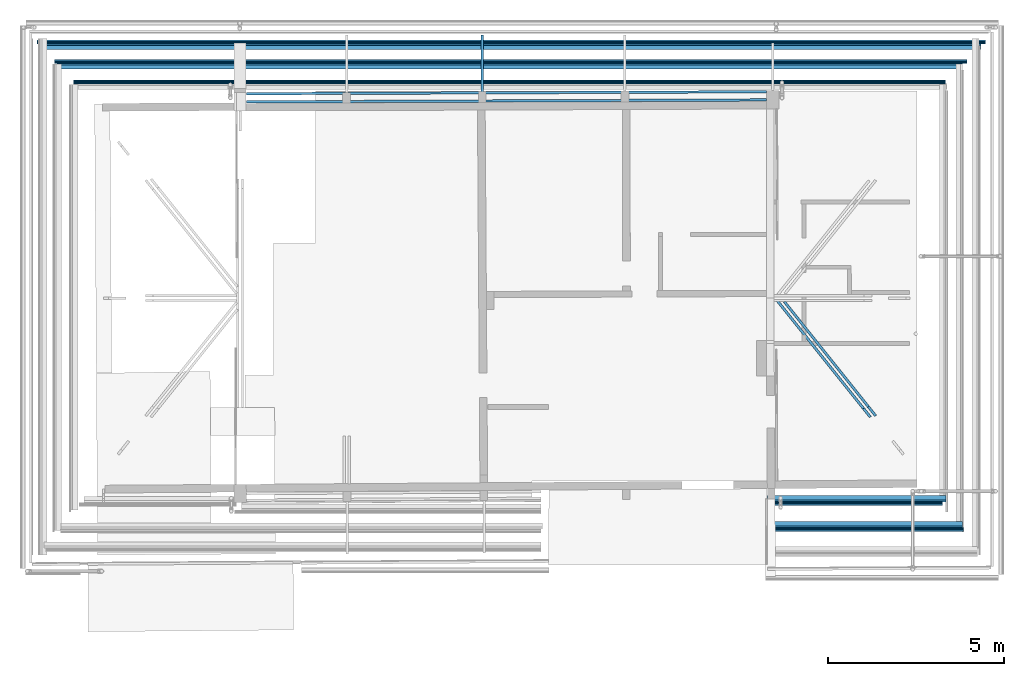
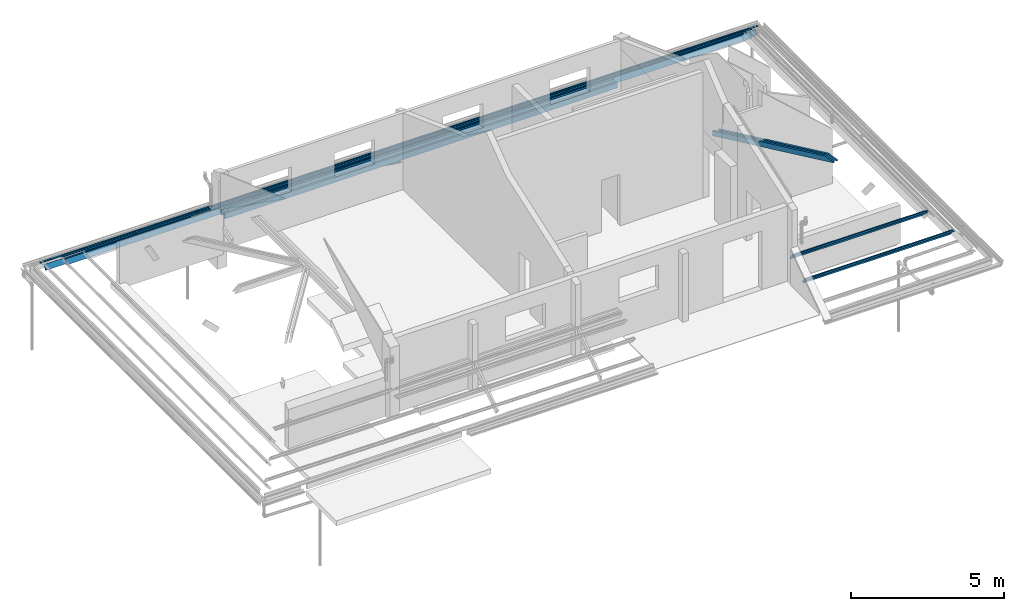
# One storey, part 4 of 15: 14 beams.
"""IFC2X3 building model written with IfcOpenShell, lengths in centimetres."""

from ifc_helpers import new_model, entity, si_unit, converted_unit, direction, frame, frame_2d, origin, place, context, subcontext, project, spatial, polyline, circle_curve, parameter, trimmed, segment, composite_curve, rectangle, outline, extrude, clip, halfspace, material, type_object, element, save


model = new_model("IFC2X3")

# Units and contexts
model_context = context("Model", 3, precision=0.001, world=frame((0.0, 0.0, 13090.0)), true_north=direction((6.123233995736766e-17, 1.0)))
body_context = subcontext(model_context, "Body", "Model", "MODEL_VIEW")
ifc_project = project(units=[si_unit("LENGTHUNIT", "METRE", prefix="CENTI"), si_unit("AREAUNIT", "SQUARE_METRE"), si_unit("VOLUMEUNIT", "CUBIC_METRE"), converted_unit("PLANEANGLEUNIT", "DEGREE", entity("IfcPlaneAngleMeasure", 0.017453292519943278), si_unit("PLANEANGLEUNIT", "RADIAN"), dimensions=[0, 0, 0, 0, 0, 0, 0])], contexts=[model_context])

# Site, building, storey
site_placement = place(None, origin())
site = spatial("IfcSite", under=ifc_project, at=site_placement, Name="Default", CompositionType="ELEMENT")
building_placement = place(site_placement, origin())
building = spatial("IfcBuilding", under=site, at=building_placement, Name="e 39 logements et 22 maisons relais", CompositionType="ELEMENT")
storey_placement = place(building_placement, frame((0.0, 0.0, 340.0)))
storey = spatial("IfcBuildingStorey", under=building, at=storey_placement, Name="R+1", CompositionType="ELEMENT", Elevation=339.99999999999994)

# Beams
ifc_material_1 = material(Name="Bois - Bois de construction de dimensions courantes")
beam_type_1 = type_object("IfcBeamType", Name="Poutre - Bois de construction de dimensions courantes:70 220", PredefinedType="BEAM")
beam_1_placement = place(storey_placement, frame((398.03480771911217, -674.776342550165, 71.60441190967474)))
element("IfcBeam", 1, at=beam_1_placement, inside=storey, type_object=beam_type_1, material=ifc_material_1, Name="Poutre - Bois de construction de dimensions courantes:70 220", ObjectType="Poutre - Bois de construction de dimensions courantes:70 220", context=body_context, shape_type="SweptSolid", body=[
    extrude(rectangle(XDim=21.999999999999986, YDim=7.000000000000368, at=frame_2d((-2.220446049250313e-14, 1.509903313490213e-14), x_axis=(1.0, 0.0))), frame((190.96017083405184, 6.309340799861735, -9.01067248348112), z_axis=(1.0, 0.0, 0.0), x_axis=(0.0, -0.5735764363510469, 0.8191520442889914)), (0.0, 0.0, 1.0), 554.3515268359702),
])
beam_2_placement = place(storey_placement, frame((305.9115104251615, -600.6780314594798, 124.05293187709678)))
element("IfcBeam", 2, at=beam_2_placement, inside=storey, type_object=beam_type_1, material=ifc_material_1, Name="Poutre - Bois de construction de dimensions courantes:70 220", ObjectType="Poutre - Bois de construction de dimensions courantes:70 220", context=body_context, shape_type="SweptSolid", body=[
    extrude(rectangle(XDim=21.99999999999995, YDim=7.000000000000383, at=frame_2d((2.220446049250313e-14, -1.554312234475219e-14), x_axis=(1.0, 0.0))), frame((280.5240877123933, 6.309340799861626, -9.01067248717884), z_axis=(1.0, 0.0, 0.0), x_axis=(0.0, -0.5735764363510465, 0.8191520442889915)), (0.0, 0.0, 1.0), 510.0531462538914),
])
beam_3_placement = place(storey_placement, frame((51.855182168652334, 538.7994862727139, 123.00368259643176), z_axis=(0.0, 0.0, 1.0), x_axis=(-0.9999924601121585, -0.003883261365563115, 0.0)))
element("IfcBeam", 3, at=beam_3_placement, inside=storey, type_object=beam_type_1, material=ifc_material_1, Name="Poutre - Bois de construction de dimensions courantes:70 220", ObjectType="Poutre - Bois de construction de dimensions courantes:70 220", context=body_context, shape_type="SweptSolid", body=[
    extrude(rectangle(XDim=21.99999999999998, YDim=7.000000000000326, at=frame_2d((0.0, 5.395683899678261e-14), x_axis=(1.0, 0.0))), frame((-534.2301434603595, 0.0, -11.0), z_axis=(1.0, 0.0, 0.0), x_axis=(0.0, 0.0, -1.0)), (0.0, 0.0, 1.0), 1480.4887631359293),
])
beam_4_placement = place(storey_placement, frame((51.752197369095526, 562.1367783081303, 123.00368259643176), z_axis=(0.0, 0.0, 1.0), x_axis=(-0.9999924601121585, -0.003883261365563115, 0.0)))
element("IfcBeam", 4, at=beam_4_placement, inside=storey, type_object=beam_type_1, material=ifc_material_1, Name="Poutre - Bois de construction de dimensions courantes:70 220", ObjectType="Poutre - Bois de construction de dimensions courantes:70 220", context=body_context, shape_type="SweptSolid", body=[
    extrude(rectangle(XDim=21.99999999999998, YDim=7.000000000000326, at=frame_2d((0.0, 5.395683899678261e-14), x_axis=(1.0, 0.0))), frame((-534.2301434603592, 0.0, -11.0), z_axis=(1.0, 0.0, 0.0), x_axis=(0.0, 0.0, -1.0)), (0.0, 0.0, 1.0), 1480.4647552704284),
])
beam_5_placement = place(storey_placement, frame((-223.54477353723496, 773.5851912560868, 29.76606766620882), z_axis=(0.0, 0.5804591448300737, 0.8142893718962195), x_axis=(0.0, -0.8142893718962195, 0.5804591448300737)))
element("IfcBeam", 5, at=beam_5_placement, inside=storey, type_object=beam_type_1, material=ifc_material_1, Name="Poutre - Bois de construction de dimensions courantes:70 220", ObjectType="Poutre - Bois de construction de dimensions courantes:70 220", context=body_context, shape_type="SweptSolid", body=[
    extrude(rectangle(XDim=22.000000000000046, YDim=7.00000000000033, at=frame_2d((-2.220446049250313e-14, 0.0), x_axis=(1.0, 0.0))), frame((10.090585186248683, 0.0, -80.0), z_axis=(1.0, 0.0, 0.0), x_axis=(0.0, 0.0, -1.0)), (0.0, 0.0, 1.0), 201.65636044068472),
])
beam_type_2 = type_object("IfcBeamType", Name="Poutre - Bois de construction de dimensions courantes:70 200", PredefinedType="BEAM")
beam_6_placement = place(storey_placement, frame((-570.9302602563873, 698.3165568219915, 23.599999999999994), z_axis=(0.000494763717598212, 0.0, 0.9999998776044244), x_axis=(-0.9999998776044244, 0.0, 0.000494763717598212)))
element("IfcBeam", 6, at=beam_6_placement, inside=storey, type_object=beam_type_2, material=ifc_material_1, Name="Poutre - Bois de construction de dimensions courantes:70 200", ObjectType="Poutre - Bois de construction de dimensions courantes:70 200", context=body_context, shape_type="SweptSolid", body=[
    extrude(rectangle(XDim=19.99999999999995, YDim=7.0000000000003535, at=frame_2d((2.220446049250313e-14, -1.554312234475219e-14), x_axis=(1.0, 0.0))), frame((-1766.3248782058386, 5.735764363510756, -8.191520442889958), z_axis=(1.0, 0.0, 0.0), x_axis=(0.0, -0.5735764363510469, 0.8191520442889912)), (0.0, 0.0, 1.0), 2675.084715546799),
])
beam_7_placement = place(storey_placement, frame((-570.9302602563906, 643.0927872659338, 63.0), z_axis=(0.00018427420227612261, 0.0, 0.999999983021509), x_axis=(-0.999999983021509, 0.0, 0.00018427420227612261)))
element("IfcBeam", 7, at=beam_7_placement, inside=storey, type_object=beam_type_2, material=ifc_material_1, Name="Poutre - Bois de construction de dimensions courantes:70 200", ObjectType="Poutre - Bois de construction de dimensions courantes:70 200", context=body_context, shape_type="SweptSolid", body=[
    extrude(rectangle(XDim=19.999999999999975, YDim=7.000000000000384, at=frame_2d((2.220446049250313e-14, -1.554312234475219e-14), x_axis=(1.0, 0.0))), frame((-1714.2767637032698, 5.735764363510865, -8.191520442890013), z_axis=(1.0, 0.0, 0.0), x_axis=(0.0, -0.5735764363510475, 0.8191520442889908)), (0.0, 0.0, 1.0), 2576.1904769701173),
])
beam_8_placement = place(storey_placement, frame((688.1425548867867, -120.34924568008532, 266.32572503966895), z_axis=(0.0, 0.0, 1.0), x_axis=(0.624840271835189, -0.7807526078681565, 0.0)))
element("IfcBeam", 8, at=beam_8_placement, inside=storey, type_object=beam_type_2, material=ifc_material_1, Name="Poutre - Bois de construction de dimensions courantes:70 200", ObjectType="Poutre - Bois de construction de dimensions courantes:70 200", context=body_context, shape_type="Clipping", body=[
    clip(extrude(rectangle(XDim=20.0, YDim=7.000000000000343, at=frame_2d((-4.218847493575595e-15, 0.0), x_axis=(0.0, 1.0))), frame((-114.90966560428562, 0.0, -10.0), z_axis=(1.0, 0.0, 0.0), x_axis=(0.0, 1.0, 0.0)), (0.0, 0.0, 1.0), 423.97533659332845), halfspace(frame((221.00747817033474, -423.9753365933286, 31.608140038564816), z_axis=(0.4869245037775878, 0.0, 0.8734440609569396), x_axis=(0.0, 1.0, 0.0)), False)),
])
beam_9_placement = place(storey_placement, frame((699.0730913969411, -111.60148187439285, 266.32572503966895), z_axis=(0.0, 0.0, 1.0), x_axis=(0.6248402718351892, -0.7807526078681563, 0.0)))
element("IfcBeam", 9, at=beam_9_placement, inside=storey, type_object=beam_type_2, material=ifc_material_1, Name="Poutre - Bois de construction de dimensions courantes:70 200", ObjectType="Poutre - Bois de construction de dimensions courantes:70 200", context=body_context, shape_type="Clipping", body=[
    clip(extrude(rectangle(XDim=20.0, YDim=7.000000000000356, at=frame_2d((-1.4876988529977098e-14, 0.0), x_axis=(0.0, 1.0))), frame((-100.13993338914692, 0.0, -10.0), z_axis=(1.0, 0.0, 0.0), x_axis=(0.0, 1.0, 0.0)), (0.0, 0.0, 1.0), 415.8410174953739), halfspace(frame((221.0074781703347, -415.8410174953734, 34.896910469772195), z_axis=(0.49070508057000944, 0.0, 0.8713257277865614), x_axis=(0.0, 1.0, 0.0)), False)),
])
ifc_material_2 = material(Name="neuf")
beam_type_3 = type_object("IfcBeamType", Name="panne z:panne z", PredefinedType="BEAM")
beam_10_placement = place(storey_placement, frame((-570.9302602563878, 652.0682951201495, 72.19999999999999), z_axis=(0.0007777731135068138, 0.0, 0.9999996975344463), x_axis=(-0.9999996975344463, 0.0, 0.0007777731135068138)))
element("IfcBeam", 10, at=beam_10_placement, inside=storey, type_object=beam_type_3, material=ifc_material_2, Name="panne z:panne z", ObjectType="panne z:panne z", context=body_context, shape_type="SweptSolid", body=[
    extrude(outline(composite_curve([segment(trimmed(circle_curve(frame_2d((-0.2999999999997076, 2.5999999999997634), x_axis=(1.0, 0.0)), 0.39999999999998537), [parameter(0.0)], [parameter(89.99999999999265)], True, "PARAMETER"), True, "CONTINUOUS"), segment(polyline([(-0.29999999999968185, 3.0), (-4.599999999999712, 3.0)]), True, "CONTINUOUS"), segment(trimmed(circle_curve(frame_2d((-4.599999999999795, 2.6000000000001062), x_axis=(0.0, 1.0)), 0.3999999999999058), [parameter(0.0)], [parameter(90.00000000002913)], True, "PARAMETER"), True, "CONTINUOUS"), segment(polyline([(-5.0, 2.6000000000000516), (-5.0, 1.0)]), True, "CONTINUOUS"), segment(polyline([(-5.0, 1.0), (-4.7999999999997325, 1.0)]), True, "CONTINUOUS"), segment(polyline([(-4.799999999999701, 1.0), (-4.799999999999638, 2.6000000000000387)]), True, "CONTINUOUS"), segment(trimmed(circle_curve(frame_2d((-4.5999999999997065, 2.600000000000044), x_axis=(-1.0, 0.0)), 0.200000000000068), [parameter(270.0000000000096)], [parameter(0.0)], True, "PARAMETER"), False, "CONTINUOUS"), segment(polyline([(-4.599999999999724, 2.8000000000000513), (-0.2999999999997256, 2.7999999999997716)]), True, "CONTINUOUS"), segment(trimmed(circle_curve(frame_2d((-0.2999999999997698, 2.5999999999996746), x_axis=(0.0, 1.0)), 0.20000000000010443), [parameter(270.00000000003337)], [parameter(0.0)], True, "PARAMETER"), False, "CONTINUOUS"), segment(polyline([(-0.09999999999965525, 2.5999999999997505), (-0.09999999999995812, -2.600000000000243)]), True, "CONTINUOUS"), segment(trimmed(circle_curve(frame_2d((0.2999999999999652, -2.60000000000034), x_axis=(-1.0, 0.0)), 0.3999999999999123), [parameter(0.0)], [parameter(90.00000000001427)], True, "PARAMETER"), True, "CONTINUOUS"), segment(polyline([(0.2999999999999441, -3.0), (4.599999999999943, -3.0)]), True, "CONTINUOUS"), segment(trimmed(circle_curve(frame_2d((4.600000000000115, -2.6000000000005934), x_axis=(0.0, -1.0)), 0.39999999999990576), [parameter(0.0)], [parameter(90.00000000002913)], True, "PARAMETER"), True, "CONTINUOUS"), segment(polyline([(5.0, -2.600000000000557), (5.0, -1.0)]), True, "CONTINUOUS"), segment(polyline([(5.0, -1.0), (4.800000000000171, -1.0)]), True, "CONTINUOUS"), segment(polyline([(4.800000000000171, -1.0), (4.800000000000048, -2.6000000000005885)]), True, "CONTINUOUS"), segment(trimmed(circle_curve(frame_2d((4.600000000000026, -2.600000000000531), x_axis=(1.0, 0.0)), 0.20000000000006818), [parameter(270.0000000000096)], [parameter(0.0)], True, "PARAMETER"), False, "CONTINUOUS"), segment(polyline([(4.599999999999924, -2.8000000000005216), (0.29999999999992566, -2.8000000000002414)]), True, "CONTINUOUS"), segment(trimmed(circle_curve(frame_2d((0.30000000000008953, -2.600000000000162), x_axis=(0.0, -1.0)), 0.2000000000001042), [parameter(270.00000000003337)], [parameter(0.0)], True, "PARAMETER"), False, "CONTINUOUS"), segment(polyline([(0.10000000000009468, -2.600000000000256), (0.1000000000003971, 2.5999999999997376)]), True, "CONTINUOUS")], self_intersect=False)), frame((-1727.8088590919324, 1.7106537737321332, -2.4430667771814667), z_axis=(1.0, 0.0, 0.0), x_axis=(0.0, 0.819152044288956, 0.5735764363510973)), (0.0, 0.0, 1.0), 2597.963664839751),
])
beam_11_placement = place(storey_placement, frame((-570.9302602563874, 707.5394923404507, 32.60000000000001), z_axis=(0.0010158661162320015, 0.0, 0.9999994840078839), x_axis=(-0.9999994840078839, 0.0, 0.0010158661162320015)))
element("IfcBeam", 11, at=beam_11_placement, inside=storey, type_object=beam_type_3, material=ifc_material_2, Name="panne z:panne z", ObjectType="panne z:panne z", context=body_context, shape_type="SweptSolid", body=[
    extrude(outline(composite_curve([segment(trimmed(circle_curve(frame_2d((-0.3000000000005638, 2.5999999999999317), x_axis=(1.0, 0.0)), 0.3999999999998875), [parameter(0.0)], [parameter(90.0000000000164)], True, "PARAMETER"), True, "CONTINUOUS"), segment(polyline([(-0.3000000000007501, 3.0), (-4.600000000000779, 3.0)]), True, "CONTINUOUS"), segment(trimmed(circle_curve(frame_2d((-4.600000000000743, 2.599999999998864), x_axis=(0.0, 1.0)), 0.39999999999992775), [parameter(0.0)], [parameter(90.00000000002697)], True, "PARAMETER"), True, "CONTINUOUS"), segment(polyline([(-5.0, 2.5999999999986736), (-5.0, 1.0)]), True, "CONTINUOUS"), segment(polyline([(-5.0, 1.0), (-4.800000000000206, 1.0)]), True, "CONTINUOUS"), segment(polyline([(-4.800000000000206, 1.0), (-4.800000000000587, 2.599999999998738)]), True, "CONTINUOUS"), segment(trimmed(circle_curve(frame_2d((-4.600000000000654, 2.5999999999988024), x_axis=(-1.0, 0.0)), 0.19999999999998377), [parameter(270.0000000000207)], [parameter(0.0)], True, "PARAMETER"), False, "CONTINUOUS"), segment(polyline([(-4.6000000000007, 2.7999999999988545), (-0.3000000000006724, 2.799999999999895)]), True, "CONTINUOUS"), segment(trimmed(circle_curve(frame_2d((-0.30000000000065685, 2.599999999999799), x_axis=(0.0, 1.0)), 0.20000000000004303), [parameter(270.0000000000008)], [parameter(0.0)], True, "PARAMETER"), False, "CONTINUOUS"), segment(polyline([(-0.10000000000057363, 2.5999999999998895), (-0.09999999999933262, -2.6000000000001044)]), True, "CONTINUOUS"), segment(trimmed(circle_curve(frame_2d((0.30000000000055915, -2.6000000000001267), x_axis=(-1.0, 0.0)), 0.3999999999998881), [parameter(0.0)], [parameter(90.0000000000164)], True, "PARAMETER"), True, "CONTINUOUS"), segment(polyline([(0.3000000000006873, -3.0), (4.600000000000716, -3.0)]), True, "CONTINUOUS"), segment(trimmed(circle_curve(frame_2d((4.600000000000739, -2.5999999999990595), x_axis=(0.0, -1.0)), 0.3999999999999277), [parameter(0.0)], [parameter(90.00000000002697)], True, "PARAMETER"), True, "CONTINUOUS"), segment(polyline([(5.0, -2.5999999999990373), (5.0, -1.0)]), True, "CONTINUOUS"), segment(polyline([(5.0, -1.0), (4.800000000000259, -1.0)]), True, "CONTINUOUS"), segment(polyline([(4.800000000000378, -1.0), (4.80000000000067, -2.599999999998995)]), True, "CONTINUOUS"), segment(trimmed(circle_curve(frame_2d((4.60000000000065, -2.5999999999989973), x_axis=(1.0, 0.0)), 0.19999999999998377), [parameter(270.00000000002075)], [parameter(0.0)], True, "PARAMETER"), False, "CONTINUOUS"), segment(polyline([(4.600000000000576, -2.7999999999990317), (0.3000000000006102, -2.799999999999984)]), True, "CONTINUOUS"), segment(trimmed(circle_curve(frame_2d((0.3000000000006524, -2.5999999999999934), x_axis=(0.0, -1.0)), 0.20000000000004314), [parameter(270.0000000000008)], [parameter(0.0)], True, "PARAMETER"), False, "CONTINUOUS"), segment(polyline([(0.10000000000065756, -2.6000000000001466), (0.09999999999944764, 2.5999999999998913)]), True, "CONTINUOUS")], self_intersect=False)), frame((-1779.9494378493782, 1.9400843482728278, -2.770727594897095), z_axis=(1.0, 0.0, 0.0), x_axis=(0.0, 0.8191520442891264, 0.5735764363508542)), (0.0, 0.0, 1.0), 2699.6978983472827),
])
beam_12_placement = place(storey_placement, frame((-570.9302602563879, 593.8410145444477, 113.64999999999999), z_axis=(0.000541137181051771, 0.0, 0.999999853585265), x_axis=(-0.999999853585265, 0.0, 0.000541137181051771)))
element("IfcBeam", 12, at=beam_12_placement, inside=storey, type_object=beam_type_3, material=ifc_material_2, Name="panne z:panne z", ObjectType="panne z:panne z", context=body_context, shape_type="SweptSolid", body=[
    extrude(outline(composite_curve([segment(trimmed(circle_curve(frame_2d((-0.3000000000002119, 2.599999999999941), x_axis=(1.0, 0.0)), 0.39999999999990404), [parameter(0.0)], [parameter(90.0000000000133)], True, "PARAMETER"), True, "CONTINUOUS"), segment(polyline([(-0.30000000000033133, 3.0), (-4.60000000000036, 3.0)]), True, "CONTINUOUS"), segment(trimmed(circle_curve(frame_2d((-4.60000000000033, 2.599999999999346), x_axis=(0.0, 1.0)), 0.3999999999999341), [parameter(0.0)], [parameter(90.00000000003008)], True, "PARAMETER"), True, "CONTINUOUS"), segment(polyline([(-5.0, 2.5999999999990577), (-5.0, 1.0)]), True, "CONTINUOUS"), segment(polyline([(-5.0, 1.0), (-4.799999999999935, 1.0)]), True, "CONTINUOUS"), segment(polyline([(-4.799999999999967, 1.0), (-4.800000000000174, 2.5999999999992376)]), True, "CONTINUOUS"), segment(trimmed(circle_curve(frame_2d((-4.600000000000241, 2.599999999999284), x_axis=(-1.0, 0.0)), 0.20000000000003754), [parameter(270.0000000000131)], [parameter(0.0)], True, "PARAMETER"), False, "CONTINUOUS"), segment(polyline([(-4.600000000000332, 2.799999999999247), (-0.3000000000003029, 2.799999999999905)]), True, "CONTINUOUS"), segment(trimmed(circle_curve(frame_2d((-0.3000000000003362, 2.5999999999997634), x_axis=(0.0, 1.0)), 0.20000000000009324), [parameter(270.0000000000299)], [parameter(0.0)], True, "PARAMETER"), False, "CONTINUOUS"), segment(polyline([(-0.10000000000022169, 2.5999999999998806), (-0.09999999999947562, -2.600000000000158)]), True, "CONTINUOUS"), segment(trimmed(circle_curve(frame_2d((0.3000000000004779, -2.600000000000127), x_axis=(-1.0, 0.0)), 0.3999999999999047), [parameter(0.0)], [parameter(90.0000000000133)], True, "PARAMETER"), True, "CONTINUOUS"), segment(polyline([(0.30000000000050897, -3.0), (4.600000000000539, -3.0)]), True, "CONTINUOUS"), segment(trimmed(circle_curve(frame_2d((4.600000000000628, -2.599999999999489), x_axis=(0.0, -1.0)), 0.3999999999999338), [parameter(0.0)], [parameter(90.00000000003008)], True, "PARAMETER"), True, "CONTINUOUS"), segment(polyline([(5.0, -2.5999999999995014), (5.0, -1.0)]), True, "CONTINUOUS"), segment(polyline([(5.0, -1.0), (4.80000000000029, -1.0)]), True, "CONTINUOUS"), segment(polyline([(4.800000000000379, -1.0), (4.800000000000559, -2.599999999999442)]), True, "CONTINUOUS"), segment(trimmed(circle_curve(frame_2d((4.600000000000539, -2.5999999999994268), x_axis=(1.0, 0.0)), 0.20000000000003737), [parameter(270.00000000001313)], [parameter(0.0)], True, "PARAMETER"), False, "CONTINUOUS"), segment(polyline([(4.6000000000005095, -2.799999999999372), (0.30000000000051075, -2.7999999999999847)]), True, "CONTINUOUS"), segment(trimmed(circle_curve(frame_2d((0.30000000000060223, -2.59999999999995), x_axis=(0.0, -1.0)), 0.20000000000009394), [parameter(270.0000000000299)], [parameter(0.0)], True, "PARAMETER"), False, "CONTINUOUS"), segment(polyline([(0.1000000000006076, -2.600000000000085), (0.09999999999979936, 2.599999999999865)]), True, "CONTINUOUS")], self_intersect=False)), frame((-1666.278916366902, 1.5385808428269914, -2.1973211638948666), z_axis=(1.0, 0.0, 0.0), x_axis=(0.0, 0.8191520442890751, 0.5735764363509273)), (0.0, 0.0, 1.0), 2481.3465477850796),
])
beam_13_placement = place(storey_placement, frame((286.6348077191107, -608.7183402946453, 131.52704329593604)))
element("IfcBeam", 13, at=beam_13_placement, inside=storey, type_object=beam_type_3, material=ifc_material_2, Name="panne z:panne z", ObjectType="panne z:panne z", context=body_context, shape_type="SweptSolid", body=[
    extrude(outline(composite_curve([segment(trimmed(circle_curve(frame_2d((-0.3000000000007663, 2.600000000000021), x_axis=(1.0, 0.0)), 0.399999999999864), [parameter(0.0)], [parameter(90.00000000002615)], True, "PARAMETER"), True, "CONTINUOUS"), segment(polyline([(-0.3000000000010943, 3.0), (-4.600000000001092, 3.0)]), True, "CONTINUOUS"), segment(trimmed(circle_curve(frame_2d((-4.6000000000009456, 2.599999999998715), x_axis=(0.0, 1.0)), 0.3999999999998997), [parameter(0.0)], [parameter(90.00000000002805)], True, "PARAMETER"), True, "CONTINUOUS"), segment(polyline([(-5.0, 2.5999999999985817), (-5.0, 1.0)]), True, "CONTINUOUS"), segment(polyline([(-5.0, 1.0), (-4.800000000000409, 1.0)]), True, "CONTINUOUS"), segment(polyline([(-4.800000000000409, 1.0), (-4.800000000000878, 2.59999999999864)]), True, "CONTINUOUS"), segment(trimmed(circle_curve(frame_2d((-4.600000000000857, 2.5999999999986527), x_axis=(-1.0, 0.0)), 0.20000000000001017), [parameter(270.00000000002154)], [parameter(0.0)], True, "PARAMETER"), False, "CONTINUOUS"), segment(polyline([(-4.600000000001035, 2.799999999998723), (-0.3000000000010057, 2.8000000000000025)]), True, "CONTINUOUS"), segment(trimmed(circle_curve(frame_2d((-0.30000000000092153, 2.5999999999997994), x_axis=(0.0, 1.0)), 0.20000000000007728), [parameter(270.00000000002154)], [parameter(0.0)], True, "PARAMETER"), False, "CONTINUOUS"), segment(polyline([(-0.10000000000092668, 2.5999999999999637), (-0.09999999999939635, -2.6000000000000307)]), True, "CONTINUOUS"), segment(trimmed(circle_curve(frame_2d((0.30000000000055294, -2.600000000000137), x_axis=(-1.0, 0.0)), 0.399999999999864), [parameter(0.0)], [parameter(90.00000000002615)], True, "PARAMETER"), True, "CONTINUOUS"), segment(polyline([(0.3000000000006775, -3.0), (4.6000000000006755, -3.0)]), True, "CONTINUOUS"), segment(trimmed(circle_curve(frame_2d((4.600000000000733, -2.5999999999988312), x_axis=(0.0, -1.0)), 0.3999999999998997), [parameter(0.0)], [parameter(90.00000000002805)], True, "PARAMETER"), True, "CONTINUOUS"), segment(polyline([(5.0, -2.599999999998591), (5.0, -1.0)]), True, "CONTINUOUS"), segment(polyline([(5.0, -1.0), (4.800000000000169, -1.0)]), True, "CONTINUOUS"), segment(polyline([(4.800000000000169, -1.0), (4.800000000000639, -2.5999999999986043)]), True, "CONTINUOUS"), segment(trimmed(circle_curve(frame_2d((4.6000000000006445, -2.599999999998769), x_axis=(1.0, 0.0)), 0.20000000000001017), [parameter(270.00000000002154)], [parameter(0.0)], True, "PARAMETER"), False, "CONTINUOUS"), segment(polyline([(4.600000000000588, -2.799999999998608), (0.30000000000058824, -2.7999999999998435)]), True, "CONTINUOUS"), segment(trimmed(circle_curve(frame_2d((0.30000000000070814, -2.5999999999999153), x_axis=(0.0, -1.0)), 0.20000000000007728), [parameter(270.00000000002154)], [parameter(0.0)], True, "PARAMETER"), False, "CONTINUOUS"), segment(polyline([(0.10000000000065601, -2.599999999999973), (0.09999999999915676, 2.600000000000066)]), True, "CONTINUOUS")], self_intersect=False)), frame((302.38310253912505, 1.5385808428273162, -2.1973211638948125), z_axis=(1.0, 0.0, 0.0), x_axis=(0.0, 0.8191520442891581, 0.5735764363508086)), (0.0, 0.0, 1.0), 497.1257038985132),
])
beam_14_placement = place(storey_placement, frame((286.6348077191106, -682.773918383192, 79.35569327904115)))
element("IfcBeam", 14, at=beam_14_placement, inside=storey, type_object=beam_type_3, material=ifc_material_2, Name="panne z:panne z", ObjectType="panne z:panne z", context=body_context, shape_type="SweptSolid", body=[
    extrude(outline(composite_curve([segment(trimmed(circle_curve(frame_2d((-0.30000000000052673, 2.599999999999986), x_axis=(1.0, 0.0)), 0.399999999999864), [parameter(0.0)], [parameter(90.00000000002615)], True, "PARAMETER"), True, "CONTINUOUS"), segment(polyline([(-0.3000000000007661, 3.0), (-4.600000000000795, 3.0)]), True, "CONTINUOUS"), segment(trimmed(circle_curve(frame_2d((-4.600000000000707, 2.5999999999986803), x_axis=(0.0, 1.0)), 0.3999999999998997), [parameter(0.0)], [parameter(90.00000000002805)], True, "PARAMETER"), True, "CONTINUOUS"), segment(polyline([(-5.0, 2.599999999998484), (-5.0, 1.0)]), True, "CONTINUOUS"), segment(polyline([(-5.0, 1.0), (-4.800000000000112, 1.0)]), True, "CONTINUOUS"), segment(polyline([(-4.800000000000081, 1.0), (-4.800000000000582, 2.5999999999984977)]), True, "CONTINUOUS"), segment(trimmed(circle_curve(frame_2d((-4.600000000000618, 2.599999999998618), x_axis=(-1.0, 0.0)), 0.20000000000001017), [parameter(270.00000000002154)], [parameter(0.0)], True, "PARAMETER"), False, "CONTINUOUS"), segment(polyline([(-4.600000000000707, 2.7999999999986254), (-0.30000000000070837, 2.799999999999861)]), True, "CONTINUOUS"), segment(trimmed(circle_curve(frame_2d((-0.30000000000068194, 2.5999999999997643), x_axis=(0.0, 1.0)), 0.20000000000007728), [parameter(270.00000000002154)], [parameter(0.0)], True, "PARAMETER"), False, "CONTINUOUS"), segment(polyline([(-0.1000000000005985, 2.599999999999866), (-0.09999999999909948, -2.6000000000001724)]), True, "CONTINUOUS"), segment(trimmed(circle_curve(frame_2d((0.3000000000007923, -2.6000000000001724), x_axis=(-1.0, 0.0)), 0.399999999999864), [parameter(0.0)], [parameter(90.00000000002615)], True, "PARAMETER"), True, "CONTINUOUS"), segment(polyline([(0.3000000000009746, -3.0), (4.600000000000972, -3.0)]), True, "CONTINUOUS"), segment(trimmed(circle_curve(frame_2d((4.600000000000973, -2.5999999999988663), x_axis=(0.0, -1.0)), 0.3999999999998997), [parameter(0.0)], [parameter(90.00000000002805)], True, "PARAMETER"), True, "CONTINUOUS"), segment(polyline([(5.0, -2.5999999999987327), (5.0, -1.0)]), True, "CONTINUOUS"), segment(polyline([(5.0, -1.0), (4.800000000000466, -1.0)]), True, "CONTINUOUS"), segment(polyline([(4.800000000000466, -1.0), (4.800000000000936, -2.5999999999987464)]), True, "CONTINUOUS"), segment(trimmed(circle_curve(frame_2d((4.600000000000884, -2.5999999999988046), x_axis=(1.0, 0.0)), 0.20000000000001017), [parameter(270.00000000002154)], [parameter(0.0)], True, "PARAMETER"), False, "CONTINUOUS"), segment(polyline([(4.600000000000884, -2.7999999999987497), (0.30000000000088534, -2.7999999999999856)]), True, "CONTINUOUS"), segment(trimmed(circle_curve(frame_2d((0.3000000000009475, -2.5999999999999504), x_axis=(0.0, -1.0)), 0.20000000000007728), [parameter(270.00000000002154)], [parameter(0.0)], True, "PARAMETER"), False, "CONTINUOUS"), segment(polyline([(0.10000000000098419, -2.6000000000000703), (0.09999999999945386, 2.5999999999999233)]), True, "CONTINUOUS")], self_intersect=False)), frame((302.3831025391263, 1.5385808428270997, -2.197321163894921), z_axis=(1.0, 0.0, 0.0), x_axis=(0.0, 0.8191520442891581, 0.5735764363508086)), (0.0, 0.0, 1.0), 557.4210872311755),
])

save(model, "model.ifc")
